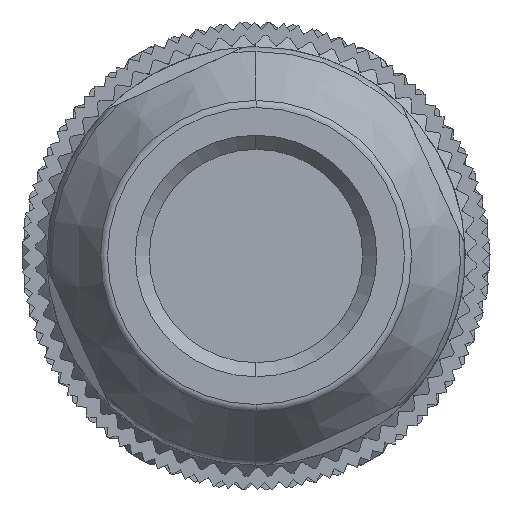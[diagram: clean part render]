
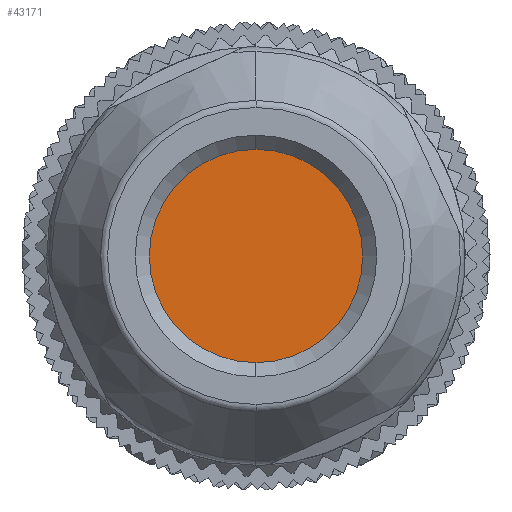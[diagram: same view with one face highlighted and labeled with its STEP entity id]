
A CAD part, left-side view. The second image highlights one B-rep face of the part: STEP entity #43171.
In plain terms, the highlighted planar face has unit normal (-1, 0, 0).
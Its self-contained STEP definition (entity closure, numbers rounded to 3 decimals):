
#3416 = CARTESIAN_POINT ( 'NONE',  ( -29.4, -1.287, -12.467 ) ) ;
#6443 = DIRECTION ( 'NONE',  ( 0., 0., -1. ) ) ;
#10306 = ORIENTED_EDGE ( 'NONE', *, *, #33996, .T. ) ;
#12752 = DIRECTION ( 'NONE',  ( -1., 0., 0. ) ) ;
#15438 = VERTEX_POINT ( 'NONE', #28431 ) ;
#16634 = CIRCLE ( 'NONE', #24153, 7.38 ) ;
#17358 = CARTESIAN_POINT ( 'NONE',  ( -29.4, -1.287, -19.847 ) ) ;
#17936 = AXIS2_PLACEMENT_3D ( 'NONE', #46684, #50702, #46492 ) ;
#21150 = FACE_OUTER_BOUND ( 'NONE', #32780, .T. ) ;
#24153 = AXIS2_PLACEMENT_3D ( 'NONE', #32723, #36709, #6443 ) ;
#25579 = ORIENTED_EDGE ( 'NONE', *, *, #41746, .T. ) ;
#28431 = CARTESIAN_POINT ( 'NONE',  ( -29.4, -1.287, -27.227 ) ) ;
#32723 = CARTESIAN_POINT ( 'NONE',  ( -29.4, -1.287, -19.847 ) ) ;
#32780 = EDGE_LOOP ( 'NONE', ( #10306, #25579 ) ) ;
#33583 = AXIS2_PLACEMENT_3D ( 'NONE', #17358, #12752, #52058 ) ;
#33996 = EDGE_CURVE ( 'NONE', #15438, #52069, #16634, .T. ) ;
#36709 = DIRECTION ( 'NONE',  ( -1., 0., 0. ) ) ;
#41746 = EDGE_CURVE ( 'NONE', #52069, #15438, #49120, .T. ) ;
#43171 = ADVANCED_FACE ( 'NONE', ( #21150 ), #50886, .F. ) ;
#46492 = DIRECTION ( 'NONE',  ( 0., 0., -1. ) ) ;
#46684 = CARTESIAN_POINT ( 'NONE',  ( -29.4, -1.287, -19.848 ) ) ;
#49120 = CIRCLE ( 'NONE', #33583, 7.38 ) ;
#50702 = DIRECTION ( 'NONE',  ( 1., 0., 0. ) ) ;
#50886 = PLANE ( 'NONE',  #17936 ) ;
#52058 = DIRECTION ( 'NONE',  ( 0., 0., -1. ) ) ;
#52069 = VERTEX_POINT ( 'NONE', #3416 ) ;
